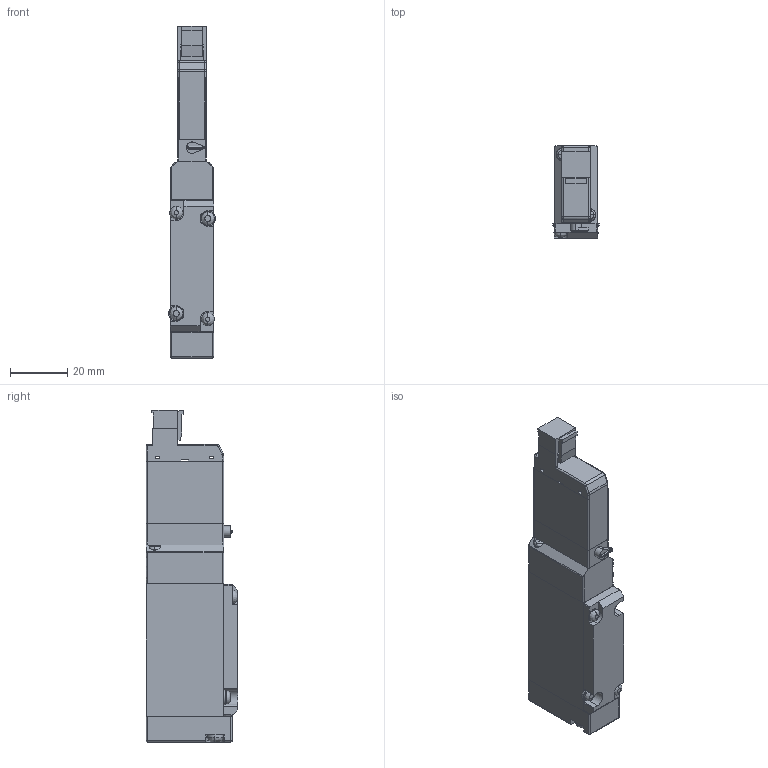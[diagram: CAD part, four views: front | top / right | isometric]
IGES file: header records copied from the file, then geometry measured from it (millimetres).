
Start section: ------------------------------------------------------------------------
Global section: file name: D:\ICADMX\tmp\trans3d_spg\CVICAD02.7120.F15T0-R-A1-PS_16759.igs; native system: spGate; preprocessor: ver12.6.6; author: Unknown; organization: Unknown; date: 210712.184840; units: millimetre
Bounding box: 16.2 x 32 x 115.5 mm (x, y, z)
Volume: 40752.9 mm3; surface area: 15776.3 mm2
Topology: 6 solids, 6 shells, 305 faces, 778 edges, 487 vertices
Faces by surface type: bspline 305
